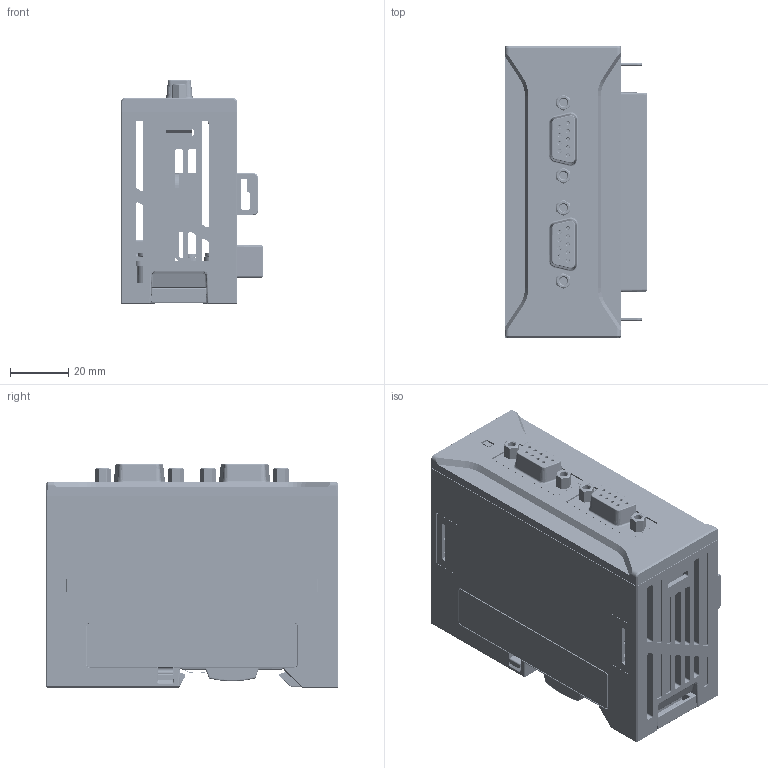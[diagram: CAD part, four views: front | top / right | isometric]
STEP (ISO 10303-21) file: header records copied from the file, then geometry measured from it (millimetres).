
FILE_DESCRIPTION (( 'STEP AP203' ), '1' );
FILE_NAME ('揹諳db9-20231128.STEP', '2023-11-28T02:17:23', ( '' ), ( '' ), 'SwSTEP 2.0', 'SolidWorks 2016', '' );
FILE_SCHEMA (( 'CONFIG_CONTROL_DESIGN' ));
Length unit declared in the file: millimetre
Products named in the file (33): 05-PCB-JK_ASM; TP-1_32; cross recessed cheese head screws type a gb_GB_CROSS_SCREWS_TYPE135 M1.2X3-N; 05-PCB; 03-04-05-EXTENSION-MODULE_ASM; 03-04-05-RIGHT-COVER; fan-2006; 揹諳db9-20231128; PCB-JK-ZJ_ASM; 05-EVA; DMR-9P; 05-TOP-COVER; 03-MYLAR-2; ZZ; BACK-COVER2; 10025026-X0XX2C-0424; 05-PCB-JK; 03-EXTENSION-MODULE-COVER_ASM; PCB-JK-ZJ; LOCK-1; BACK-COVER1; A-HBC-01B-3SYGD-F3_5; SW-P-M3-L6; 03-04-05-EX-HARDWARE-STACKING_ASM; C-2327679-1-11-3D; 03-MYLAR-1; 03-06-EXTENSION-MODULE-COVER_ASM; 05-PCB-2DB9_ASM; TP-2_14; LOCK-2; BACK-COVER3; M3XL6-4_2; 03-04-05-BOTTOM-COVER
Assembly tree (46 placements, depth 6):
  揹諳db9-20231128
    03-04-05-EXTENSION-MODULE_ASM
      03-04-05-EX-HARDWARE-STACKING_ASM
        05-PCB-2DB9_ASM
          05-PCB
          10025026-X0XX2C-0424
          C-2327679-1-11-3D
          05-PCB-JK_ASM
            05-PCB-JK
            A-HBC-01B-3SYGD-F3_5
            DMR-9P  x2
      PCB-JK-ZJ_ASM
        PCB-JK-ZJ
        M3XL6-4_2  x4
        SW-P-M3-L6  x4
      ZZ
    03-06-EXTENSION-MODULE-COVER_ASM
      03-EXTENSION-MODULE-COVER_ASM
        03-04-05-BOTTOM-COVER
        03-04-05-RIGHT-COVER
        TP-1_32
        BACK-COVER3
        BACK-COVER2
        05-EVA
        05-TOP-COVER
      LOCK-1
      LOCK-2
      BACK-COVER1
      TP-2_14
      03-MYLAR-1
      03-MYLAR-2
      SW-P-M3-L6  x6
    fan-2006
    cross recessed cheese head screws type a gb_GB_CROSS_SCREWS_TYPE135 M1.2X3-N  x2
Bounding box: 48.9 x 100 x 76.46 mm (x, y, z)
Volume: 95006 mm3; surface area: 116918.8 mm2
Topology: 39 solids, 39 shells, 8630 faces, 24295 edges, 15878 vertices
Faces by surface type: plane 5010, cylinder 2804, bspline 666, cone 144, torus 6
Entity records: 270192 total; most frequent: CARTESIAN_POINT 80731, ORIENTED_EDGE 42684, DIRECTION 32920, EDGE_CURVE 21342, VERTEX_POINT 14136, LINE 13020, VECTOR 13020, AXIS2_PLACEMENT_3D 9950
